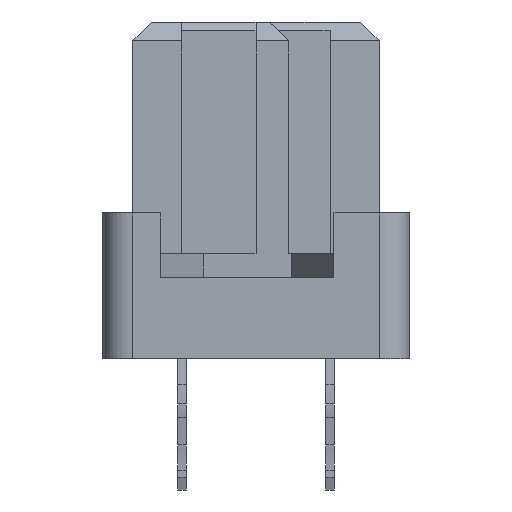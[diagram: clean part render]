
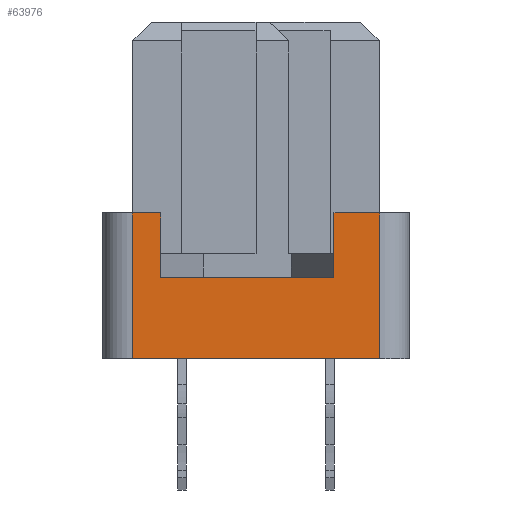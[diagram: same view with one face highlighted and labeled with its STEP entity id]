
A CAD part, left-side view. The second image highlights one B-rep face of the part: STEP entity #63976.
In plain terms, the highlighted planar face has unit normal (-1, 0, 0).
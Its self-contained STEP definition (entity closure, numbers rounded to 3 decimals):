
#56278=FACE_OUTER_BOUND('',#77918,.T.);
#63976=ADVANCED_FACE('',(#56278),#71114,.T.);
#71114=PLANE('',#205742);
#77918=EDGE_LOOP('',(#103525,#103526,#103527,#103528,#103529,#103530,#103531,
#103532));
#103525=ORIENTED_EDGE('',*,*,#153349,.T.);
#103526=ORIENTED_EDGE('',*,*,#153350,.T.);
#103527=ORIENTED_EDGE('',*,*,#153346,.T.);
#103528=ORIENTED_EDGE('',*,*,#153345,.T.);
#103529=ORIENTED_EDGE('',*,*,#152680,.T.);
#103530=ORIENTED_EDGE('',*,*,#152685,.T.);
#103531=ORIENTED_EDGE('',*,*,#153351,.T.);
#103532=ORIENTED_EDGE('',*,*,#153352,.T.);
#135567=VERTEX_POINT('',#277944);
#135568=VERTEX_POINT('',#277946);
#135571=VERTEX_POINT('',#277954);
#136010=VERTEX_POINT('',#279600);
#136012=VERTEX_POINT('',#279609);
#136014=VERTEX_POINT('',#279618);
#136015=VERTEX_POINT('',#279619);
#136016=VERTEX_POINT('',#279622);
#152680=EDGE_CURVE('',#135568,#135567,#171297,.T.);
#152685=EDGE_CURVE('',#135567,#135571,#171302,.T.);
#153345=EDGE_CURVE('',#136010,#135568,#171845,.T.);
#153346=EDGE_CURVE('',#136012,#136010,#171846,.T.);
#153349=EDGE_CURVE('',#136014,#136015,#171847,.T.);
#153350=EDGE_CURVE('',#136015,#136012,#171848,.T.);
#153351=EDGE_CURVE('',#135571,#136016,#171849,.T.);
#153352=EDGE_CURVE('',#136016,#136014,#171850,.T.);
#171297=LINE('',#277945,#186209);
#171302=LINE('',#277955,#186214);
#171845=LINE('',#279606,#186757);
#171846=LINE('',#279608,#186758);
#171847=LINE('',#279617,#186759);
#171848=LINE('',#279620,#186760);
#171849=LINE('',#279621,#186761);
#171850=LINE('',#279623,#186762);
#186209=VECTOR('',#228215,1.);
#186214=VECTOR('',#228222,1.);
#186757=VECTOR('',#229221,1.);
#186758=VECTOR('',#229224,1.);
#186759=VECTOR('',#229229,1.);
#186760=VECTOR('',#229230,1.);
#186761=VECTOR('',#229231,1.);
#186762=VECTOR('',#229232,1.);
#205742=AXIS2_PLACEMENT_3D('',#279624,#229233,#229234);
#228215=DIRECTION('',(0.,0.,-1.));
#228222=DIRECTION('',(0.,1.,0.));
#229221=DIRECTION('',(0.,1.,0.));
#229224=DIRECTION('',(0.,0.,1.));
#229229=DIRECTION('',(0.,0.,-1.));
#229230=DIRECTION('',(0.,-1.,0.));
#229231=DIRECTION('',(0.,0.,1.));
#229232=DIRECTION('',(0.,1.,0.));
#229233=DIRECTION('',(-1.,0.,0.));
#229234=DIRECTION('',(0.,1.,0.));
#277944=CARTESIAN_POINT('',(-47.4,2.575,2.8));
#277945=CARTESIAN_POINT('',(-47.4,2.575,5.));
#277946=CARTESIAN_POINT('',(-47.4,2.575,5.));
#277954=CARTESIAN_POINT('',(-47.4,8.525,2.8));
#277955=CARTESIAN_POINT('',(-47.4,2.575,2.8));
#279600=CARTESIAN_POINT('',(-47.4,1.,5.));
#279606=CARTESIAN_POINT('',(-47.4,1.,5.));
#279608=CARTESIAN_POINT('',(-47.4,1.,0.));
#279609=CARTESIAN_POINT('',(-47.4,1.,0.));
#279617=CARTESIAN_POINT('',(-47.4,9.5,5.));
#279618=CARTESIAN_POINT('',(-47.4,9.5,5.));
#279619=CARTESIAN_POINT('',(-47.4,9.5,0.));
#279620=CARTESIAN_POINT('',(-47.4,9.5,0.));
#279621=CARTESIAN_POINT('',(-47.4,8.525,2.8));
#279622=CARTESIAN_POINT('',(-47.4,8.525,5.));
#279623=CARTESIAN_POINT('',(-47.4,8.525,5.));
#279624=CARTESIAN_POINT('',(-47.4,-0.262,5.684));
